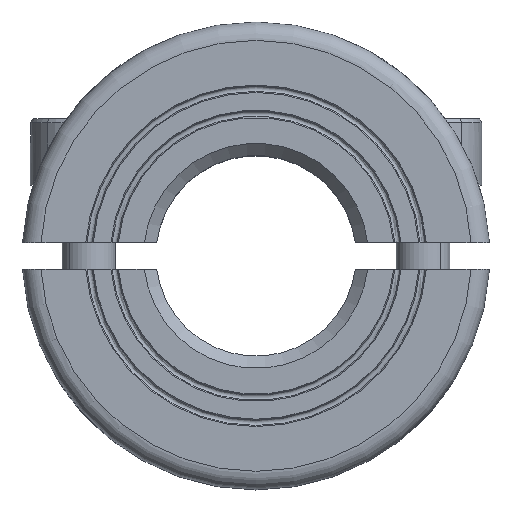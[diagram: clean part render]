
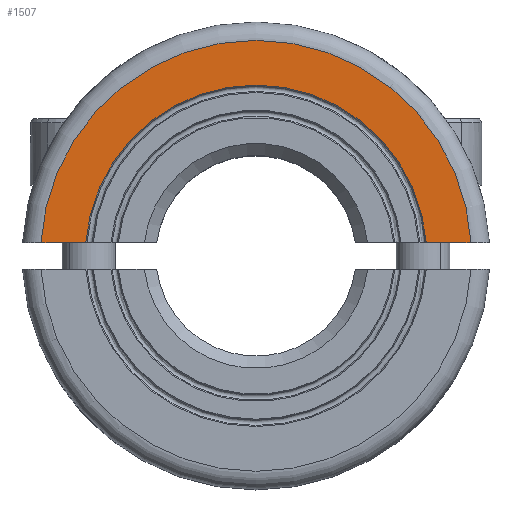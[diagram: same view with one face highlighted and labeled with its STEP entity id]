
A CAD part, top view. The second image highlights one B-rep face of the part: STEP entity #1507.
In plain terms, the highlighted planar face has unit normal (0, 0, 1).
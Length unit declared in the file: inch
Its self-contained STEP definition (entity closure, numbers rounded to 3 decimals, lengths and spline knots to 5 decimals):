
#133=CARTESIAN_POINT('',(0.50689,0.0313,
0.43307));
#283=DIRECTION('',(-1.,0.,0.));
#284=VECTOR('',#283,0.10575);
#285=CARTESIAN_POINT('',(-0.40114,0.0313,
0.43307));
#286=LINE('',#285,#284);
#382=CARTESIAN_POINT('',(0.,0.,0.43307));
#383=DIRECTION('',(0.,0.,1.));
#384=DIRECTION('',(0.998,0.062,0.));
#385=AXIS2_PLACEMENT_3D('',#382,#383,#384);
#387=DIRECTION('',(1.,0.,0.));
#388=VECTOR('',#387,0.10575);
#389=CARTESIAN_POINT('',(0.40114,0.0313,
0.43307));
#390=LINE('',#389,#388);
#396=CARTESIAN_POINT('',(0.,0.,0.43307));
#397=DIRECTION('',(0.,0.,-1.));
#398=DIRECTION('',(-0.997,0.078,0.));
#399=AXIS2_PLACEMENT_3D('',#396,#397,#398);
#401=CARTESIAN_POINT('',(0.40114,0.0313,
0.43307));
#885=VERTEX_POINT('',#133);
#888=VERTEX_POINT('',#401);
#935=CARTESIAN_POINT('',(-0.40114,0.0313,
0.43307));
#936=CARTESIAN_POINT('',(-0.5069,0.0313,
0.43307));
#937=VERTEX_POINT('',#935);
#938=VERTEX_POINT('',#936);
#1495=CARTESIAN_POINT('',(0.,0.,0.43307));
#1496=DIRECTION('',(0.,0.,1.));
#1497=DIRECTION('',(0.707,-0.707,0.));
#1498=AXIS2_PLACEMENT_3D('',#1495,#1496,#1497);
#1499=PLANE('',#1498);
#1501=ORIENTED_EDGE('',*,*,#1500,.F.);
#1502=ORIENTED_EDGE('',*,*,#1461,.T.);
#1503=ORIENTED_EDGE('',*,*,#1139,.F.);
#1504=ORIENTED_EDGE('',*,*,#1162,.F.);
#1505=EDGE_LOOP('',(#1501,#1502,#1503,#1504));
#1506=FACE_OUTER_BOUND('',#1505,.F.);
#386=CIRCLE('',#385,0.50787);
#400=CIRCLE('',#399,0.40236);
#1139=EDGE_CURVE('',#885,#938,#386,.T.);
#1162=EDGE_CURVE('',#888,#885,#390,.T.);
#1461=EDGE_CURVE('',#937,#938,#286,.T.);
#1500=EDGE_CURVE('',#937,#888,#400,.T.);
#1507=ADVANCED_FACE('',(#1506),#1499,.T.);
